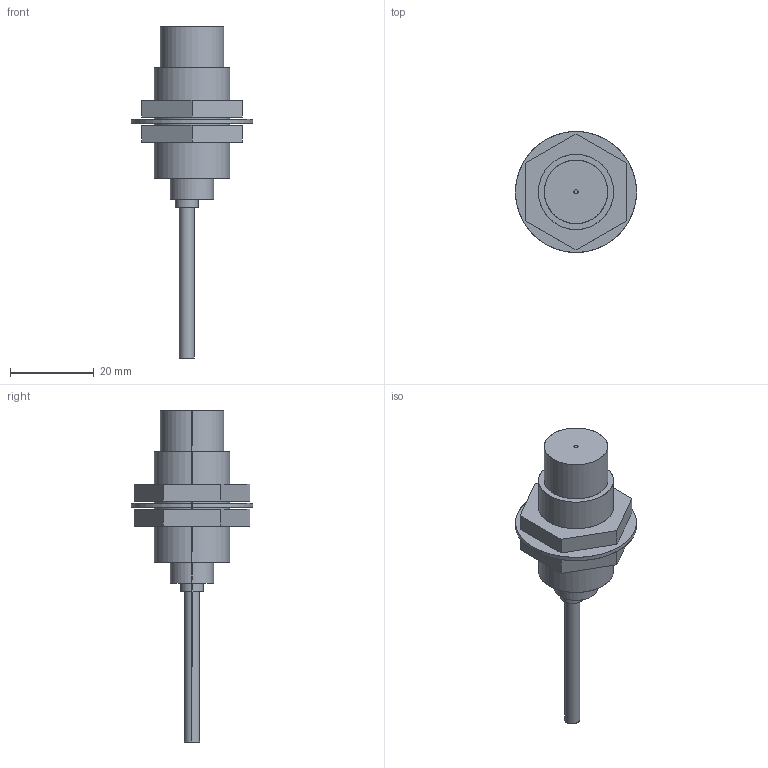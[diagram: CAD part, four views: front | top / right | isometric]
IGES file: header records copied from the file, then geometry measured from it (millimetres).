
Start section: SolidWorks IGES FILE using analytic representation for surfaces
Global section: file name: \\intra-srv04\開発データ\CAD_Data\CAD委員会\3D電子ｶﾀﾛｸﾞ\製品カタログ（新）\0_IGES\GX-18MLU.IGS,41HSolidWorks 2004; native system: by SolidWorks Corporation; preprocessor: Version 5.3; author: yk0651; date: 050908.145552; units: millimetre
Bounding box: 29 x 29 x 79.5 mm (x, y, z)
Surface area: 6145.4 mm2 (no closed solid volume)
Topology: 0 solids, 0 shells, 48 faces, 864 edges, 864 vertices
Faces by surface type: bspline 26, revolution 22
